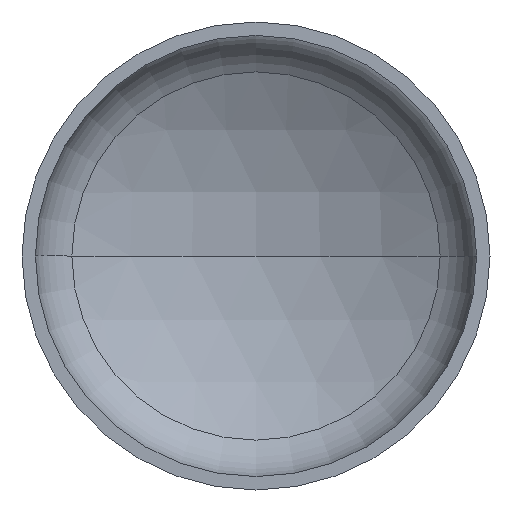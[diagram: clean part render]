
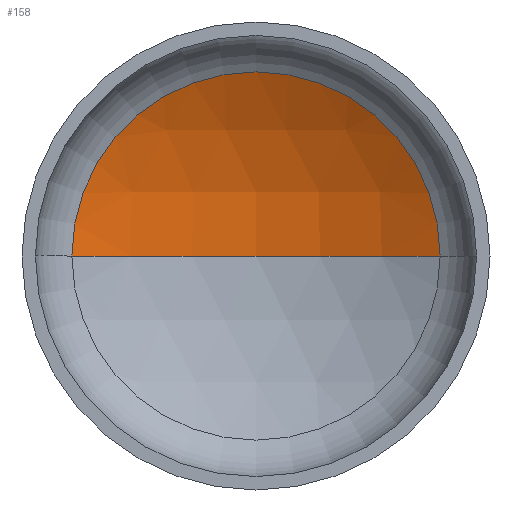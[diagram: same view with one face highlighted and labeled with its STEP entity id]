
A CAD part, front view. The second image highlights one B-rep face of the part: STEP entity #158.
In plain terms, the highlighted spherical face has radius 2400 mm.
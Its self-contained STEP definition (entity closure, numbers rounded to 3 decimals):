
#5 = CARTESIAN_POINT ( 'NONE',  ( 0., -1589.226, 0. ) ) ;
#13 = DIRECTION ( 'NONE',  ( -1., 0., 0. ) ) ;
#16 = DIRECTION ( 'NONE',  ( 0., 0., -1. ) ) ;
#18 = CARTESIAN_POINT ( 'NONE',  ( 0., -1589.226, 0. ) ) ;
#23 = EDGE_LOOP ( 'NONE', ( #140, #144, #100 ) ) ;
#39 = AXIS2_PLACEMENT_3D ( 'NONE', #297, #261, #208 ) ;
#42 = AXIS2_PLACEMENT_3D ( 'NONE', #5, #275, #195 ) ;
#47 = AXIS2_PLACEMENT_3D ( 'NONE', #202, #326, #187 ) ;
#52 = AXIS2_PLACEMENT_3D ( 'NONE', #18, #16, #13 ) ;
#94 = VERTEX_POINT ( 'NONE', #347 ) ;
#100 = ORIENTED_EDGE ( 'NONE', *, *, #103, .T. ) ;
#103 = EDGE_CURVE ( 'NONE', #127, #159, #156, .T. ) ;
#123 = EDGE_CURVE ( 'NONE', #94, #127, #344, .T. ) ;
#127 = VERTEX_POINT ( 'NONE', #405 ) ;
#136 = EDGE_CURVE ( 'NONE', #94, #159, #336, .T. ) ;
#140 = ORIENTED_EDGE ( 'NONE', *, *, #136, .F. ) ;
#144 = ORIENTED_EDGE ( 'NONE', *, *, #123, .T. ) ;
#156 = CIRCLE ( 'NONE', #47, 1180.206 ) ;
#158 = ADVANCED_FACE ( 'NONE', ( #164 ), #226, .F. ) ;
#159 = VERTEX_POINT ( 'NONE', #201 ) ;
#164 = FACE_OUTER_BOUND ( 'NONE', #23, .T. ) ;
#187 = DIRECTION ( 'NONE',  ( 1., 0., 0. ) ) ;
#195 = DIRECTION ( 'NONE',  ( 1., 0., 0. ) ) ;
#201 = CARTESIAN_POINT ( 'NONE',  ( -1180.206, 500.538, 0. ) ) ;
#202 = CARTESIAN_POINT ( 'NONE',  ( 0., 500.538, 0. ) ) ;
#208 = DIRECTION ( 'NONE',  ( -1., 0., 0. ) ) ;
#226 = SPHERICAL_SURFACE ( 'NONE', #39, 2400. ) ;
#261 = DIRECTION ( 'NONE',  ( 0., 0., -1. ) ) ;
#275 = DIRECTION ( 'NONE',  ( 0., 0., 1. ) ) ;
#297 = CARTESIAN_POINT ( 'NONE',  ( 0., -1589.226, 0. ) ) ;
#326 = DIRECTION ( 'NONE',  ( 0., -1., 0. ) ) ;
#336 = CIRCLE ( 'NONE', #42, 2400. ) ;
#344 = CIRCLE ( 'NONE', #52, 2400. ) ;
#347 = CARTESIAN_POINT ( 'NONE',  ( 0., 810.774, 0. ) ) ;
#405 = CARTESIAN_POINT ( 'NONE',  ( 1180.206, 500.538, 0. ) ) ;
